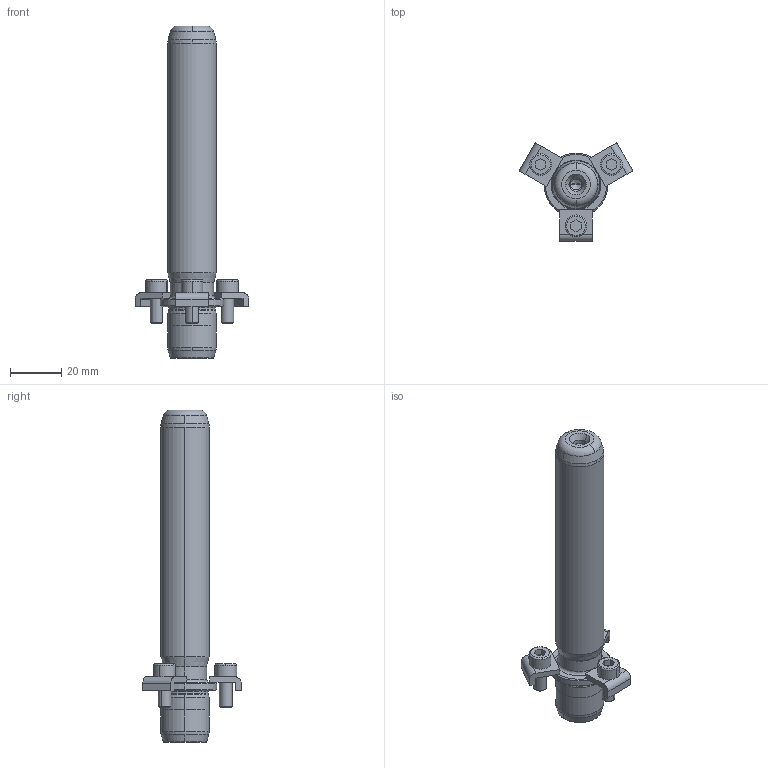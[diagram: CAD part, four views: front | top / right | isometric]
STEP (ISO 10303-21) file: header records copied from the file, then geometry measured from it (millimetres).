
FILE_DESCRIPTION((''),'2;1');
FILE_NAME('P21_019_110.stp','2008-12-18T10:51:49',(''),(''),'Mechanical Desktop 2009','Mechanical Desktop 2009',', , ');
FILE_SCHEMA(('CONFIG_CONTROL_DESIGN'));
Length unit declared in the file: millimetre
Products named in the file (2): Product; blmdl1
Assembly tree (1 placements, depth 2):
  Product
    blmdl1
Bounding box: 44.46 x 38.5 x 130 mm (x, y, z)
Volume: 38577.2 mm3; surface area: 11885 mm2
Topology: 7 solids, 7 shells, 163 faces, 399 edges, 257 vertices
Faces by surface type: plane 59, cylinder 44, cone 32, bspline 18, torus 10
Entity records: 5605 total; most frequent: CARTESIAN_POINT 1537, DIRECTION 900, ORIENTED_EDGE 790, EDGE_CURVE 395, AXIS2_PLACEMENT_3D 358, VERTEX_POINT 257, CIRCLE 211, VECTOR 184
